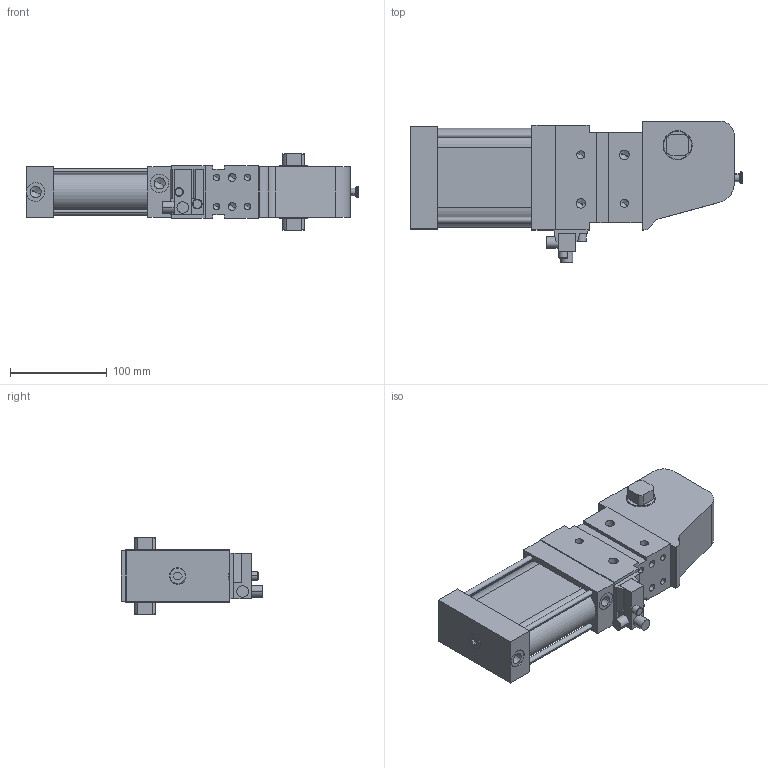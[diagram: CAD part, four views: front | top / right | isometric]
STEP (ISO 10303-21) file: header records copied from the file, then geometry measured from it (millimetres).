
FILE_DESCRIPTION (( 'STEP AP214' ), '1' );
FILE_NAME ('AKUHV63-Z00W12.STEP', '2026-07-07T17:35:04', ( '' ), ( '' ), 'SwSTEP 2.0', 'SolidWorks 2019', '' );
FILE_SCHEMA (( 'AUTOMOTIVE_DESIGN' ));
Length unit declared in the file: millimetre
Products named in the file (1): AKUHV63-Z00W12
Bounding box: 343 x 146.5 x 79 mm (x, y, z)
Volume: 1617963.6 mm3; surface area: 135830.2 mm2
Topology: 1 solids, 2 shells, 265 faces, 664 edges, 395 vertices
Faces by surface type: plane 99, cylinder 94, cone 60, torus 12
Entity records: 8624 total; most frequent: CARTESIAN_POINT 1364, DIRECTION 1355, ORIENTED_EDGE 1236, EDGE_CURVE 618, AXIS2_PLACEMENT_3D 492, VERTEX_POINT 395, VECTOR 371, LINE 371
